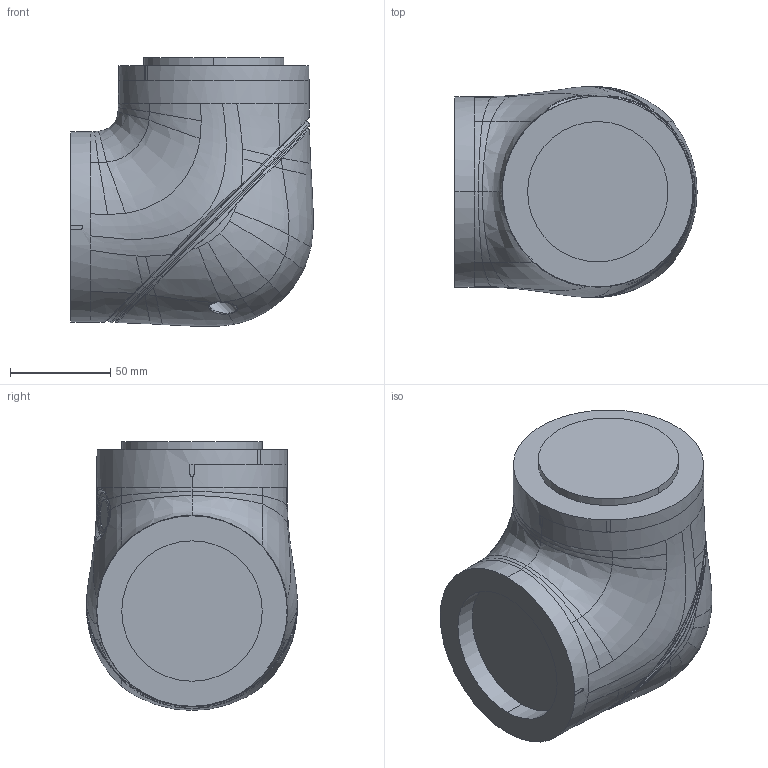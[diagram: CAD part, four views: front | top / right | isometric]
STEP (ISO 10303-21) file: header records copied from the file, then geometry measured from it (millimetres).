
FILE_DESCRIPTION(/* description */ ('AP214 STEP file'),/* implementation_level */ '2;1');
FILE_NAME(/* name */ '1300_model-c006_stp',/* time_stamp */ '2023-03-07T19:22:12+09:00',/* author */ (''),/* organization */ (''),/* preprocessor_version */ '7.2.1.0',/* originating_system */ 'Elysium Co. Ltd. STEP Translator',/* authorisation */ '');
FILE_SCHEMA (('AUTOMOTIVE_DESIGN'));
Length unit declared in the file: millimetre
Products named in the file (1): 1300_MODEL-C006
Bounding box: 120.8 x 105.12 x 134.07 mm (x, y, z)
Volume: 1088767.4 mm3; surface area: 64031.6 mm2
Topology: 1 solids, 1 shells, 478 faces, 1156 edges, 689 vertices
Faces by surface type: bspline 244, plane 91, cylinder 55, extrusion 46, cone 20, torus 16, sphere 6
Entity records: 27664 total; most frequent: CARTESIAN_POINT 18601, ORIENTED_EDGE 2312, EDGE_CURVE 1156, DIRECTION 1048, VERTEX_POINT 689, B_SPLINE_CURVE_WITH_KNOTS 630, AXIS2_PLACEMENT_3D 529, EDGE_LOOP 487
